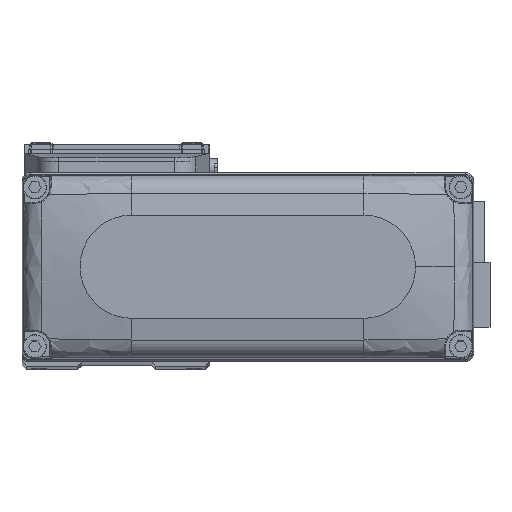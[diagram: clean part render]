
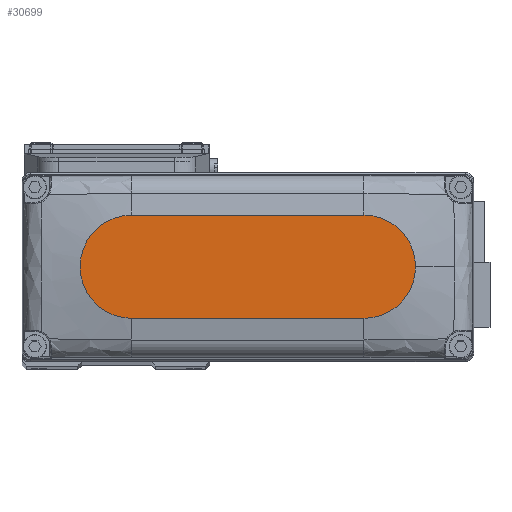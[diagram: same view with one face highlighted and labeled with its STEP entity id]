
A CAD part, top view. The second image highlights one B-rep face of the part: STEP entity #30699.
In plain terms, the highlighted planar face has unit normal (0, 0, 1).
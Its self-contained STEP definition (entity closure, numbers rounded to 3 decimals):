
#848 = DIRECTION ( 'NONE',  ( 0., 0., 1. ) ) ;
#1110 = CARTESIAN_POINT ( 'NONE',  ( 0., 0., 25. ) ) ;
#1409 = CARTESIAN_POINT ( 'NONE',  ( 27., 12., 25. ) ) ;
#3084 = VECTOR ( 'NONE', #29126, 1000. ) ;
#3250 = ORIENTED_EDGE ( 'NONE', *, *, #19009, .T. ) ;
#3848 = VERTEX_POINT ( 'NONE', #22075 ) ;
#4597 = DIRECTION ( 'NONE',  ( 0., 0., 1. ) ) ;
#4703 = LINE ( 'NONE', #16929, #3084 ) ;
#5134 = EDGE_CURVE ( 'NONE', #5869, #16319, #29088, .T. ) ;
#5579 = ORIENTED_EDGE ( 'NONE', *, *, #25182, .T. ) ;
#5869 = VERTEX_POINT ( 'NONE', #12177 ) ;
#6653 = AXIS2_PLACEMENT_3D ( 'NONE', #1110, #13333, #25527 ) ;
#11846 = AXIS2_PLACEMENT_3D ( 'NONE', #28269, #848, #13070 ) ;
#12088 = AXIS2_PLACEMENT_3D ( 'NONE', #13637, #25830, #38047 ) ;
#12177 = CARTESIAN_POINT ( 'NONE',  ( -27., 12., 25. ) ) ;
#13070 = DIRECTION ( 'NONE',  ( 1., 0., 0. ) ) ;
#13333 = DIRECTION ( 'NONE',  ( 0., 0., 1. ) ) ;
#13434 = LINE ( 'NONE', #25623, #29317 ) ;
#13637 = CARTESIAN_POINT ( 'NONE',  ( 27., 0., 25. ) ) ;
#16319 = VERTEX_POINT ( 'NONE', #20176 ) ;
#16331 = FACE_OUTER_BOUND ( 'NONE', #25810, .T. ) ;
#16810 = DIRECTION ( 'NONE',  ( 1., 0., 0. ) ) ;
#16929 = CARTESIAN_POINT ( 'NONE',  ( -27., -12., 25. ) ) ;
#18833 = VERTEX_POINT ( 'NONE', #1409 ) ;
#19009 = EDGE_CURVE ( 'NONE', #16319, #26017, #4703, .T. ) ;
#19326 = EDGE_CURVE ( 'NONE', #18833, #5869, #13434, .T. ) ;
#20130 = AXIS2_PLACEMENT_3D ( 'NONE', #32011, #4597, #16810 ) ;
#20176 = CARTESIAN_POINT ( 'NONE',  ( -27., -12., 25. ) ) ;
#21266 = EDGE_CURVE ( 'NONE', #26017, #3848, #29342, .T. ) ;
#22075 = CARTESIAN_POINT ( 'NONE',  ( 39., 0., 25. ) ) ;
#25182 = EDGE_CURVE ( 'NONE', #3848, #18833, #37356, .T. ) ;
#25527 = DIRECTION ( 'NONE',  ( 1., 0., 0. ) ) ;
#25623 = CARTESIAN_POINT ( 'NONE',  ( -27., 12., 25. ) ) ;
#25810 = EDGE_LOOP ( 'NONE', ( #30886, #33606, #3250, #29867, #5579 ) ) ;
#25830 = DIRECTION ( 'NONE',  ( 0., 0., 1. ) ) ;
#26017 = VERTEX_POINT ( 'NONE', #36496 ) ;
#28269 = CARTESIAN_POINT ( 'NONE',  ( -27., 0., 25. ) ) ;
#28532 = PLANE ( 'NONE',  #6653 ) ;
#29088 = CIRCLE ( 'NONE', #11846, 12. ) ;
#29126 = DIRECTION ( 'NONE',  ( 1., 0., 0. ) ) ;
#29317 = VECTOR ( 'NONE', #37829, 1000. ) ;
#29342 = CIRCLE ( 'NONE', #12088, 12. ) ;
#29867 = ORIENTED_EDGE ( 'NONE', *, *, #21266, .T. ) ;
#30699 = ADVANCED_FACE ( 'NONE', ( #16331 ), #28532, .T. ) ;
#30886 = ORIENTED_EDGE ( 'NONE', *, *, #19326, .T. ) ;
#32011 = CARTESIAN_POINT ( 'NONE',  ( 27., 0., 25. ) ) ;
#33606 = ORIENTED_EDGE ( 'NONE', *, *, #5134, .T. ) ;
#36496 = CARTESIAN_POINT ( 'NONE',  ( 27., -12., 25. ) ) ;
#37356 = CIRCLE ( 'NONE', #20130, 12. ) ;
#37829 = DIRECTION ( 'NONE',  ( -1., 0., 0. ) ) ;
#38047 = DIRECTION ( 'NONE',  ( 1., 0., 0. ) ) ;
